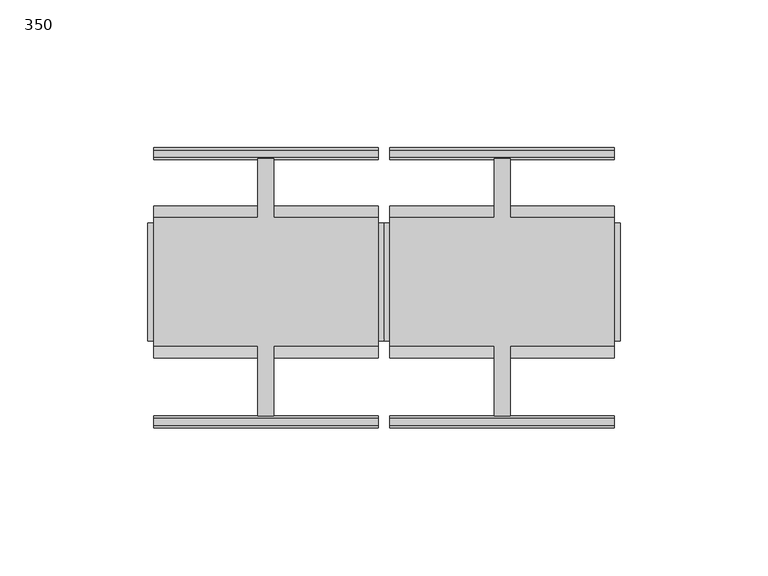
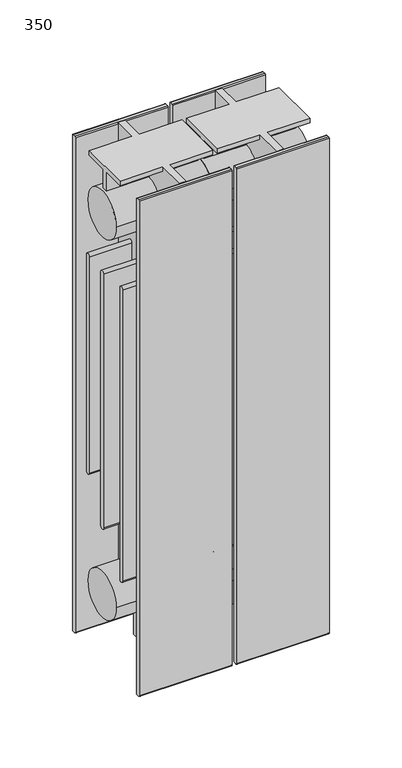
"""IFC4 building model written with IfcOpenShell, lengths in millimetres: flow terminal geometry, Radiators_Plus_EVO : 350."""

from ifc_helpers import new_model, si_unit, point, frame, frame_2d, origin, place, context, project, spatial, polyline, circle_curve, trimmed, segment, composite_curve, outline, extrude, source, transform, mapped, element, save
from ifc_brep_helpers import plane_surface, cylinder_surface, advanced_brep


def flow_terminal_350_35cabe33(model_context):
    return source(origin(), model_context, "Body", "SolidModel", [
        advanced_brep(
        [(400.0, -25.503125, 400.388638), (400.0, -65.503125, 400.388638), (320.0, -25.503125, 400.388638), (320.0, -65.503125, 400.388638), (362.7187498, -65.503125, 400.388638), (362.7187498, -25.503125, 400.388638), (357.2812502, -25.503125, 400.388638), (357.2812502, -65.503125, 400.388638), (362.7187498, -43.495241, 420.2875928), (398.0, -43.495241, 420.2875928), (398.0, -47.495241, 420.2891775), (362.7187498, -47.495241, 420.2891775), (357.2812502, -47.495241, 420.2891775), (322.0, -47.495241, 420.2891775), (322.0, -43.495241, 420.2875928), (357.2812502, -43.495241, 420.2875928), (398.0, -43.495241, 436.9849544), (398.0, -23.7570628, 436.9849544), (398.0, -23.7570628, 441.0), (398.0, -67.2491872, 441.0), (398.0, -67.2491872, 436.9849544), (398.0, -47.495241, 436.9849544), (322.0, -47.495241, 436.9849544), (322.0, -67.2491872, 436.9849544), (322.0, -67.2491872, 441.0), (322.0, -23.7570628, 441.0), (322.0, -23.7570628, 436.9849544), (322.0, -43.495241, 436.9849544), (362.7187498, -3.7880777, 441.0), (357.2812502, -3.7880777, 441.0), (357.2812502, -23.7570628, 441.0), (357.2812502, -67.2491872, 441.0), (357.2812502, -91.0, 441.0), (362.7187498, -91.0, 441.0), (362.7187498, -67.2491872, 441.0), (362.7187498, -23.7570628, 441.0), (362.7187498, -47.495241, 436.9849544), (357.2812502, -47.495241, 436.9849544), (362.7187498, -43.495241, 436.9849544), (357.2812502, -43.495241, 436.9849544), (362.7187498, -91.0, 10.0), (362.7187498, -74.066735, 30.9108407), (362.7187498, -65.495241, 30.9108407), (362.7187498, -65.495241, 10.0), (362.7187498, -25.495241, 10.0), (362.7187498, -25.495241, 30.9108407), (362.7187498, -8.0284548, 30.9108407), (362.7187498, -8.0284548, 37.9108407), (362.7187498, -4.0, 37.9108407), (362.7187498, -4.0, 440.2059516), (362.7187498, -3.7471759, 440.7895598), (362.7187498, -23.7570628, 436.9849544), (362.7187498, -67.2491872, 436.9849544), (362.7187498, -91.0, 440.2059516), (362.7187498, -91.0, 10.8), (357.2812502, -8.0284548, 37.9108407), (357.2812502, -8.0284548, 30.9108407), (357.2812502, -25.495241, 30.9108407), (357.2812502, -25.495241, 10.0), (357.2812502, -65.495241, 10.0), (357.2812502, -65.495241, 30.9108407), (357.2812502, -74.066735, 30.9108407), (357.2812502, -91.0, 10.0), (357.2812502, -91.0, 10.8), (357.2812502, -91.0, 440.2059516), (357.2812502, -67.2491872, 436.9849544), (357.2812502, -23.7570628, 436.9849544), (357.2812502, -3.7471759, 440.7895598), (357.2812502, -4.0, 440.2059516), (357.2812502, -4.0, 37.9108407), (398.0, 0.0, 440.2059516), (398.0, 0.0, 10.8), (322.0, 0.0, 10.8), (322.0, 0.0, 440.2059516), (398.0, -94.2, 441.0059516), (398.0, -95.0, 440.2059516), (398.0, -95.0, 10.8), (398.0, -94.2, 10.0), (398.0, -91.8, 10.0), (398.0, -91.0, 10.8), (398.0, -91.0, 440.2059516), (398.0, -91.8, 441.0059516), (322.0, -94.2, 441.0059516), (322.0, -91.8, 441.0059516), (322.0, -91.0, 440.2059516), (322.0, -91.0, 10.8), (322.0, -91.8, 10.0), (322.0, -94.2, 10.0), (322.0, -95.0, 10.8), (322.0, -95.0, 440.2059516), (398.0, -0.8, 441.0059516), (398.0, -3.2, 441.0059516), (398.0, -4.0, 440.2059516), (398.0, -4.0, 10.8), (398.0, -3.2, 10.0), (398.0, -0.8, 10.0), (322.0, -0.8, 10.0), (322.0, -3.2, 10.0), (322.0, -4.0, 10.8), (322.0, -4.0, 440.2059516), (322.0, -3.2, 441.0059516), (322.0, -0.8, 441.0059516)],
        [
            (0, 1, circle_curve(frame((400.0, -45.503125, 400.388638), z_axis=(1.0, 0.0, 0.0), x_axis=(0.0, -1.0, 0.0)), 20.0)),
            (1, 0, circle_curve(frame((400.0, -45.503125, 400.388638), z_axis=(1.0, 0.0, 0.0), x_axis=(0.0, -1.0, 0.0)), 20.0)),
            (2, 3, circle_curve(frame((320.0, -45.503125, 400.388638), z_axis=(-1.0, 0.0, 0.0), x_axis=(0.0, -1.0, 0.0)), 20.0)),
            (3, 2, circle_curve(frame((320.0, -45.503125, 400.388638), z_axis=(-1.0, 0.0, 0.0), x_axis=(0.0, -1.0, 0.0)), 20.0)),
            (1, 4),
            (4, 5, circle_curve(frame((362.7187498, -45.503125, 400.388638), z_axis=(1.0, 0.0, 0.0), x_axis=(0.0, -1.0, 0.0)), 20.0)),
            (5, 0),
            (2, 6),
            (6, 7, circle_curve(frame((357.2812502, -45.503125, 400.388638), z_axis=(-1.0, 0.0, 0.0), x_axis=(0.0, -1.0, 0.0)), 20.0)),
            (7, 3),
            (5, 8, circle_curve(frame((362.7187498, -45.503125, 400.388638), z_axis=(1.0, 0.0, 0.0), x_axis=(0.0, -1.0, 0.0)), 20.0)),
            (8, 9),
            (9, 10, circle_curve(frame((398.0, -45.503125, 400.388638), z_axis=(1.0, 0.0, 0.0), x_axis=(0.0, -1.0, 0.0)), 20.0)),
            (10, 11),
            (11, 4, circle_curve(frame((362.7187498, -45.503125, 400.388638), z_axis=(1.0, 0.0, 0.0), x_axis=(0.0, -1.0, 0.0)), 20.0)),
            (7, 12, circle_curve(frame((357.2812502, -45.503125, 400.388638), z_axis=(-1.0, 0.0, 0.0), x_axis=(0.0, -1.0, 0.0)), 20.0)),
            (12, 13),
            (13, 14, circle_curve(frame((322.0, -45.503125, 400.388638), z_axis=(-1.0, 0.0, 0.0), x_axis=(0.0, -1.0, 0.0)), 20.0)),
            (14, 15),
            (15, 6, circle_curve(frame((357.2812502, -45.503125, 400.388638), z_axis=(-1.0, 0.0, 0.0), x_axis=(0.0, -1.0, 0.0)), 20.0)),
            (9, 16),
            (16, 17),
            (17, 18),
            (18, 19),
            (19, 20),
            (20, 21),
            (21, 10),
            (13, 22),
            (22, 23),
            (23, 24),
            (24, 25),
            (25, 26),
            (26, 27),
            (27, 14),
            (28, 29),
            (29, 30),
            (30, 25),
            (24, 31),
            (31, 32),
            (32, 33),
            (33, 34),
            (34, 19),
            (18, 35),
            (35, 28),
            (21, 36),
            (36, 11),
            (12, 37),
            (37, 22),
            (8, 38),
            (38, 16),
            (27, 39),
            (39, 15),
            (40, 41),
            (41, 42),
            (42, 43),
            (43, 44),
            (44, 45),
            (45, 46),
            (46, 47),
            (47, 48),
            (48, 49),
            (49, 50, circle_curve(frame((362.7187498, -3.2, 440.2059516), z_axis=(-1.0, 0.0, 0.0), x_axis=(0.0, 1.0, 0.0)), 0.8)),
            (50, 28),
            (35, 51),
            (51, 38),
            (36, 52),
            (52, 34),
            (33, 53),
            (53, 54),
            (54, 40),
            (55, 56),
            (56, 57),
            (57, 58),
            (58, 59),
            (59, 60),
            (60, 61),
            (61, 62),
            (62, 63),
            (63, 64),
            (64, 32),
            (31, 65),
            (65, 37),
            (39, 66),
            (66, 30),
            (29, 67),
            (67, 68, circle_curve(frame((357.2812502, -3.2, 440.2059516), z_axis=(1.0, 0.0, 0.0), x_axis=(0.0, 1.0, 0.0)), 0.8)),
            (68, 69),
            (69, 55),
            (47, 55),
            (69, 48),
            (46, 56),
            (45, 57),
            (41, 61),
            (60, 42),
            (50, 67),
            (64, 53),
            (62, 40),
            (54, 63),
            (70, 71),
            (71, 72),
            (72, 73),
            (73, 70),
            (74, 75, circle_curve(frame((398.0, -94.2, 440.2059516), z_axis=(1.0, 0.0, 0.0), x_axis=(0.0, -1.0, 0.0)), 0.8)),
            (75, 76),
            (76, 77, circle_curve(frame((398.0, -94.2, 10.8), z_axis=(1.0, 0.0, 0.0), x_axis=(0.0, -1.0, 0.0)), 0.8)),
            (77, 78),
            (78, 79, circle_curve(frame((398.0, -91.8, 10.8), z_axis=(1.0, 0.0, 0.0), x_axis=(0.0, -1.0, 0.0)), 0.8)),
            (79, 80),
            (80, 81, circle_curve(frame((398.0, -91.8, 440.2059516), z_axis=(1.0, 0.0, 0.0), x_axis=(0.0, -1.0, 0.0)), 0.8)),
            (81, 74),
            (82, 83),
            (83, 84, circle_curve(frame((322.0, -91.8, 440.2059516), z_axis=(-1.0, 0.0, 0.0), x_axis=(0.0, -1.0, 0.0)), 0.8)),
            (84, 85),
            (85, 86, circle_curve(frame((322.0, -91.8, 10.8), z_axis=(-1.0, 0.0, 0.0), x_axis=(0.0, -1.0, 0.0)), 0.8)),
            (86, 87),
            (87, 88, circle_curve(frame((322.0, -94.2, 10.8), z_axis=(-1.0, 0.0, 0.0), x_axis=(0.0, -1.0, 0.0)), 0.8)),
            (88, 89),
            (89, 82, circle_curve(frame((322.0, -94.2, 440.2059516), z_axis=(-1.0, 0.0, 0.0), x_axis=(0.0, -1.0, 0.0)), 0.8)),
            (81, 83),
            (82, 74),
            (80, 53),
            (64, 84),
            (79, 54),
            (63, 85),
            (78, 86),
            (77, 87),
            (76, 88),
            (75, 89),
            (51, 17),
            (26, 66),
            (20, 52),
            (65, 23),
            (43, 59),
            (58, 44),
            (70, 90, circle_curve(frame((398.0, -0.8, 440.2059516), z_axis=(1.0, 0.0, 0.0), x_axis=(0.0, 1.0, 0.0)), 0.8)),
            (90, 91),
            (91, 92, circle_curve(frame((398.0, -3.2, 440.2059516), z_axis=(1.0, 0.0, 0.0), x_axis=(0.0, 1.0, 0.0)), 0.8)),
            (92, 93),
            (93, 94, circle_curve(frame((398.0, -3.2, 10.8), z_axis=(1.0, 0.0, 0.0), x_axis=(0.0, 1.0, 0.0)), 0.8)),
            (94, 95),
            (95, 71, circle_curve(frame((398.0, -0.8, 10.8), z_axis=(1.0, 0.0, 0.0), x_axis=(0.0, 1.0, 0.0)), 0.8)),
            (72, 96, circle_curve(frame((322.0, -0.8, 10.8), z_axis=(-1.0, 0.0, 0.0), x_axis=(0.0, 1.0, 0.0)), 0.8)),
            (96, 97),
            (97, 98, circle_curve(frame((322.0, -3.2, 10.8), z_axis=(-1.0, 0.0, 0.0), x_axis=(0.0, 1.0, 0.0)), 0.8)),
            (98, 99),
            (99, 100, circle_curve(frame((322.0, -3.2, 440.2059516), z_axis=(-1.0, 0.0, 0.0), x_axis=(0.0, 1.0, 0.0)), 0.8)),
            (100, 101),
            (101, 73, circle_curve(frame((322.0, -0.8, 440.2059516), z_axis=(-1.0, 0.0, 0.0), x_axis=(0.0, 1.0, 0.0)), 0.8)),
            (101, 90),
            (100, 91),
            (99, 68),
            (49, 92),
            (98, 93),
            (97, 94),
            (96, 95),
        ],
        [
            plane_surface(frame((400.0, -65.503125, 400.388638), z_axis=(1.0, 0.0, 0.0), x_axis=(0.0, 0.0, -1.0))),
            plane_surface(frame((320.0, -65.503125, 400.388638), z_axis=(-1.0, 0.0, 0.0), x_axis=(0.0, 0.0, 1.0))),
            cylinder_surface(frame((320.0, -45.503125, 400.388638), z_axis=(1.0, 0.0, 0.0), x_axis=(0.0, -1.0, 0.0)), 20.0),
            plane_surface(frame((398.0, -47.495241, 418.7073439), z_axis=(1.0, 0.0, 0.0), x_axis=(0.0, 0.0, -1.0))),
            plane_surface(frame((322.0, -47.495241, 418.7073439), z_axis=(-1.0, 0.0, 0.0), x_axis=(0.0, 0.0, 1.0))),
            plane_surface(frame((398.0, -43.495241, 441.0), z_axis=(0.0, 0.0, 1.0), x_axis=(-1.0, 0.0, 0.0))),
            plane_surface(frame((398.0, -47.495241, 441.0), z_axis=(0.0, -1.0, 0.0), x_axis=(-1.0, 0.0, 0.0))),
            plane_surface(frame((398.0, -43.495241, 418.7073439), z_axis=(0.0, 1.0, 0.0), x_axis=(-1.0, 0.0, 0.0))),
            plane_surface(frame((362.7187498, -91.0, 441.0), z_axis=(1.0, 0.0, 0.0), x_axis=(0.0, -1.0, 0.0))),
            plane_surface(frame((357.2812502, -91.0, 441.0), z_axis=(-1.0, 0.0, 0.0), x_axis=(0.0, 1.0, 0.0))),
            plane_surface(frame((362.7187498, -8.0284548, 37.9108407), z_axis=(0.0, 0.0, -1.0), x_axis=(-1.0, 0.0, 0.0))),
            plane_surface(frame((362.7187498, -8.0284548, 30.9108407), z_axis=(0.0, 1.0, 0.0), x_axis=(-1.0, 0.0, 0.0))),
            plane_surface(frame((362.7187498, -74.066735, 30.9108407), z_axis=(0.0, 0.0, -1.0), x_axis=(-1.0, 0.0, 0.0))),
            plane_surface(frame((362.7187498, -1.4796375, 429.1230619), z_axis=(0.0, 0.9816303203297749, 0.19079285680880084), x_axis=(-1.0, 0.0, 0.0))),
            plane_surface(frame((362.7187498, -91.0, 441.0), z_axis=(0.0, -1.0, 0.0), x_axis=(-1.0, 0.0, 0.0))),
            plane_surface(frame((362.7187498, -91.0, 10.0), z_axis=(0.0, 0.7771459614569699, -0.6293203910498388), x_axis=(-1.0, 0.0, 0.0))),
            plane_surface(frame((362.7187498, 0.0, 37.9108407), z_axis=(0.0, 1.0, 0.0), x_axis=(-1.0, 0.0, 0.0))),
            plane_surface(frame((398.0, -95.0, 440.2059516), z_axis=(1.0, 0.0, 0.0), x_axis=(0.0, 0.0, -1.0))),
            plane_surface(frame((322.0, -95.0, 440.2059516), z_axis=(-1.0, 0.0, 0.0), x_axis=(0.0, 0.0, 1.0))),
            plane_surface(frame((398.0, -91.8, 441.0059516), z_axis=(0.0, 0.0, 1.0), x_axis=(-1.0, 0.0, 0.0))),
            cylinder_surface(frame((322.0, -91.8, 440.2059516), z_axis=(1.0, 0.0, 0.0), x_axis=(0.0, -1.0, 0.0)), 0.8),
            plane_surface(frame((398.0, -91.0, 10.8), z_axis=(0.0, 1.0, 0.0), x_axis=(-1.0, 0.0, 0.0))),
            cylinder_surface(frame((322.0, -91.8, 10.8), z_axis=(1.0, 0.0, 0.0), x_axis=(0.0, -1.0, 0.0)), 0.8),
            plane_surface(frame((398.0, -94.2, 10.0), z_axis=(0.0, 0.0, -1.0), x_axis=(-1.0, 0.0, 0.0))),
            cylinder_surface(frame((322.0, -94.2, 10.8), z_axis=(1.0, 0.0, 0.0), x_axis=(0.0, -1.0, 0.0)), 0.8),
            plane_surface(frame((398.0, -95.0, 440.2059516), z_axis=(0.0, -1.0, 0.0), x_axis=(-1.0, 0.0, 0.0))),
            cylinder_surface(frame((322.0, -94.2, 440.2059516), z_axis=(1.0, 0.0, 0.0), x_axis=(0.0, -1.0, 0.0)), 0.8),
            plane_surface(frame((362.7187498, -23.7570628, 436.9849544), z_axis=(0.0, 0.0, -1.0), x_axis=(1.0, 0.0, 0.0))),
            plane_surface(frame((398.0, -23.7570628, 441.0), z_axis=(0.0, 1.0, 0.0), x_axis=(0.0, 0.0, -1.0))),
            plane_surface(frame((362.7187498, -67.2491872, 441.0), z_axis=(0.0, -1.0, 0.0), x_axis=(0.0, 0.0, -1.0))),
            plane_surface(frame((322.0, -67.2491872, 441.0), z_axis=(0.0, -1.0, 0.0), x_axis=(0.0, 0.0, -1.0))),
            plane_surface(frame((362.7187498, -65.495241, 10.0), z_axis=(0.0, 0.0, -1.0), x_axis=(-1.0, 0.0, 0.0))),
            plane_surface(frame((362.7187498, -25.495241, 10.0), z_axis=(0.0, 1.0, 0.0), x_axis=(-1.0, 0.0, 0.0))),
            plane_surface(frame((362.7187498, -65.495241, 69.9984662), z_axis=(0.0, -1.0, 0.0), x_axis=(-1.0, 0.0, 0.0))),
            plane_surface(frame((398.0, 0.0, 440.2059516), z_axis=(1.0, 0.0, 0.0), x_axis=(0.0, 0.0, 1.0))),
            plane_surface(frame((322.0, 0.0, 440.2059516), z_axis=(-1.0, 0.0, 0.0), x_axis=(0.0, 0.0, -1.0))),
            cylinder_surface(frame((322.0, -0.8, 440.2059516), z_axis=(1.0, 0.0, 0.0), x_axis=(0.0, 1.0, 0.0)), 0.8),
            plane_surface(frame((398.0, -0.8, 441.0059516), z_axis=(0.0, 0.0, 1.0), x_axis=(-1.0, 0.0, 0.0))),
            cylinder_surface(frame((322.0, -3.2, 440.2059516), z_axis=(1.0, 0.0, 0.0), x_axis=(0.0, 1.0, 0.0)), 0.8),
            plane_surface(frame((398.0, -4.0, 440.2059516), z_axis=(0.0, -1.0, 0.0), x_axis=(-1.0, 0.0, 0.0))),
            cylinder_surface(frame((322.0, -3.2, 10.8), z_axis=(1.0, 0.0, 0.0), x_axis=(0.0, 1.0, 0.0)), 0.8),
            plane_surface(frame((398.0, -3.2, 10.0), z_axis=(0.0, 0.0, -1.0), x_axis=(-1.0, 0.0, 0.0))),
            cylinder_surface(frame((322.0, -0.8, 10.8), z_axis=(1.0, 0.0, 0.0), x_axis=(0.0, 1.0, 0.0)), 0.8),
        ],
        [
            (0, [[1, 2]]),
            (1, [[3, 4]]),
            (2, [[-2, 5, 6, 7]]),
            (2, [[-3, 8, 9, 10]]),
            (2, [[-1, -7, 11, 12, 13, 14, 15, -5]]),
            (2, [[-4, -10, 16, 17, 18, 19, 20, -8]]),
            (3, [[-13, 21, 22, 23, 24, 25, 26, 27]]),
            (4, [[-18, 28, 29, 30, 31, 32, 33, 34]]),
            (5, [[35, 36, 37, -31, 38, 39, 40, 41, 42, -24, 43, 44]]),
            (6, [[-14, -27, 45, 46]]),
            (6, [[-17, 47, 48, -28]]),
            (7, [[-12, 49, 50, -21]]),
            (7, [[-19, -34, 51, 52]]),
            (8, [[53, 54, 55, 56, 57, 58, 59, 60, 61, 62, 63, -44, 64, 65, -49, -11, -6, -15, -46, 66, 67, -41, 68, 69, 70]]),
            (9, [[71, 72, 73, 74, 75, 76, 77, 78, 79, 80, -39, 81, 82, -47, -16, -9, -20, -52, 83, 84, -36, 85, 86, 87, 88]]),
            (10, [[89, -88, 90, -60]]),
            (11, [[-59, 91, -71, -89]]),
            (12, [[-91, -58, 92, -72]]),
            (12, [[93, -76, 94, -54]]),
            (13, [[-35, -63, 95, -85]]),
            (14, [[-40, -80, 96, -68]]),
            (14, [[97, -70, 98, -78]]),
            (15, [[-53, -97, -77, -93]]),
            (16, [[99, 100, 101, 102]]),
            (17, [[103, 104, 105, 106, 107, 108, 109, 110]]),
            (18, [[111, 112, 113, 114, 115, 116, 117, 118]]),
            (19, [[-110, 119, -111, 120]]),
            (20, [[-109, 121, -96, 122, -112, -119]]),
            (21, [[-108, 123, -69, -121]]),
            (21, [[-113, -122, -79, 124]]),
            (22, [[-107, 125, -114, -124, -98, -123]]),
            (23, [[-106, 126, -115, -125]]),
            (24, [[-105, 127, -116, -126]]),
            (25, [[-104, 128, -117, -127]]),
            (26, [[-103, -120, -118, -128]]),
            (27, [[-22, -50, -65, 129]]),
            (27, [[-33, 130, -83, -51]]),
            (27, [[131, -66, -45, -26]]),
            (27, [[132, -29, -48, -82]]),
            (28, [[-32, -37, -84, -130]]),
            (28, [[-23, -129, -64, -43]]),
            (29, [[-42, -67, -131, -25]]),
            (30, [[-38, -30, -132, -81]]),
            (31, [[-56, 133, -74, 134]]),
            (32, [[-134, -73, -92, -57]]),
            (33, [[-133, -55, -94, -75]]),
            (34, [[135, 136, 137, 138, 139, 140, 141, -99]]),
            (35, [[-101, 142, 143, 144, 145, 146, 147, 148]]),
            (36, [[-135, -102, -148, 149]]),
            (37, [[-136, -149, -147, 150]]),
            (38, [[-137, -150, -146, 151, -86, -95, -62, 152]]),
            (39, [[-138, -152, -61, -90, -87, -151, -145, 153]]),
            (40, [[-139, -153, -144, 154]]),
            (41, [[-140, -154, -143, 155]]),
            (42, [[-141, -155, -142, -100]]),
        ],
    ),
        extrude(outline(composite_curve([segment(trimmed(circle_curve(frame_2d((-45.495241, 69.9984662)), 20.0), [point((-25.495241, 69.9984662))], [point((-65.495241, 69.9984662))], False, "CARTESIAN"), True, "CONTINUOUS"), segment(trimmed(circle_curve(frame_2d((-45.495241, 69.9984662)), 20.0), [point((-65.495241, 69.9984662))], [point((-25.495241, 69.9984662))], False, "CARTESIAN"), True, "CONTINUOUS")], self_intersect=False)), frame((320.0, 0.0, 0.0), z_axis=(1.0, 0.0, 0.0), x_axis=(0.0, 1.0, 0.0)), (0.0, 0.0, 1.0), 80.0),
        extrude(outline(composite_curve([segment(trimmed(circle_curve(frame_2d((-69.2421244, 96.0436136)), 2.0), [point((-67.2421244, 96.0436136))], [point((-71.2421244, 96.0436136))], False, "CARTESIAN"), True, "CONTINUOUS"), segment(polyline([(-71.2421244, 96.0436136), (-71.2421244, 348.635473)]), True, "CONTINUOUS"), segment(trimmed(circle_curve(frame_2d((-69.2421244, 348.635473)), 2.0), [point((-71.2421244, 348.635473))], [point((-67.2421244, 348.635473))], False, "CARTESIAN"), True, "CONTINUOUS"), segment(polyline([(-67.2421244, 348.635473), (-67.2421244, 96.0436136)]), True, "CONTINUOUS")], self_intersect=False)), frame((322.0, 0.0, 0.0), z_axis=(1.0, 0.0, 0.0), x_axis=(0.0, 1.0, 0.0)), (0.0, 0.0, 1.0), 76.0),
        extrude(outline(composite_curve([segment(trimmed(circle_curve(frame_2d((-45.503125, 128.5759611)), 2.0), [point((-43.503125, 128.5759611))], [point((-47.503125, 128.5759611))], False, "CARTESIAN"), True, "CONTINUOUS"), segment(polyline([(-47.503125, 128.5759611), (-47.503125, 348.635473)]), True, "CONTINUOUS"), segment(trimmed(circle_curve(frame_2d((-45.503125, 348.635473)), 2.0), [point((-47.503125, 348.635473))], [point((-43.503125, 348.635473))], False, "CARTESIAN"), True, "CONTINUOUS"), segment(polyline([(-43.503125, 348.635473), (-43.503125, 128.5759611)]), True, "CONTINUOUS")], self_intersect=False)), frame((320.0, 0.0, 0.0), z_axis=(1.0, 0.0, 0.0), x_axis=(0.0, 1.0, 0.0)), (0.0, 0.0, 1.0), 80.0),
        extrude(outline(composite_curve([segment(trimmed(circle_curve(frame_2d((-21.75, 161.0607738)), 2.0), [point((-19.75, 161.0607738))], [point((-23.75, 161.0607738))], False, "CARTESIAN"), True, "CONTINUOUS"), segment(polyline([(-23.75, 161.0607738), (-23.75, 348.635473)]), True, "CONTINUOUS"), segment(trimmed(circle_curve(frame_2d((-21.75, 348.635473)), 2.0), [point((-23.75, 348.635473))], [point((-19.75, 348.635473))], False, "CARTESIAN"), True, "CONTINUOUS"), segment(polyline([(-19.75, 348.635473), (-19.75, 161.0607738)]), True, "CONTINUOUS")], self_intersect=False)), frame((322.0, 0.0, 0.0), z_axis=(1.0, 0.0, 0.0), x_axis=(0.0, 1.0, 0.0)), (0.0, 0.0, 1.0), 76.0),
        advanced_brep(
        [(320.0, -25.503125, 400.388638), (320.0, -65.503125, 400.388638), (240.0, -25.503125, 400.388638), (240.0, -65.503125, 400.388638), (282.7187498, -65.503125, 400.388638), (282.7187498, -25.503125, 400.388638), (277.2812502, -25.503125, 400.388638), (277.2812502, -65.503125, 400.388638), (282.7187498, -43.495241, 420.2875928), (318.0, -43.495241, 420.2875928), (318.0, -47.495241, 420.2891775), (282.7187498, -47.495241, 420.2891775), (277.2812502, -47.495241, 420.2891775), (242.0, -47.495241, 420.2891775), (242.0, -43.495241, 420.2875928), (277.2812502, -43.495241, 420.2875928), (318.0, -43.495241, 436.9849544), (318.0, -23.7570628, 436.9849544), (318.0, -23.7570628, 441.0), (318.0, -67.2491872, 441.0), (318.0, -67.2491872, 436.9849544), (318.0, -47.495241, 436.9849544), (242.0, -47.495241, 436.9849544), (242.0, -67.2491872, 436.9849544), (242.0, -67.2491872, 441.0), (242.0, -23.7570628, 441.0), (242.0, -23.7570628, 436.9849544), (242.0, -43.495241, 436.9849544), (282.7187498, -3.7880777, 441.0), (277.2812502, -3.7880777, 441.0), (277.2812502, -23.7570628, 441.0), (277.2812502, -67.2491872, 441.0), (277.2812502, -91.0, 441.0), (282.7187498, -91.0, 441.0), (282.7187498, -67.2491872, 441.0), (282.7187498, -23.7570628, 441.0), (282.7187498, -47.495241, 436.9849544), (277.2812502, -47.495241, 436.9849544), (282.7187498, -43.495241, 436.9849544), (277.2812502, -43.495241, 436.9849544), (282.7187498, -91.0, 10.0), (282.7187498, -74.066735, 30.9108407), (282.7187498, -65.495241, 30.9108407), (282.7187498, -65.495241, 10.0), (282.7187498, -25.495241, 10.0), (282.7187498, -25.495241, 30.9108407), (282.7187498, -8.0284548, 30.9108407), (282.7187498, -8.0284548, 37.9108407), (282.7187498, -4.0, 37.9108407), (282.7187498, -4.0, 440.2059516), (282.7187498, -3.7471759, 440.7895598), (282.7187498, -23.7570628, 436.9849544), (282.7187498, -67.2491872, 436.9849544), (282.7187498, -91.0, 440.2059516), (282.7187498, -91.0, 10.8), (277.2812502, -8.0284548, 37.9108407), (277.2812502, -8.0284548, 30.9108407), (277.2812502, -25.495241, 30.9108407), (277.2812502, -25.495241, 10.0), (277.2812502, -65.495241, 10.0), (277.2812502, -65.495241, 30.9108407), (277.2812502, -74.066735, 30.9108407), (277.2812502, -91.0, 10.0), (277.2812502, -91.0, 10.8), (277.2812502, -91.0, 440.2059516), (277.2812502, -67.2491872, 436.9849544), (277.2812502, -23.7570628, 436.9849544), (277.2812502, -3.7471759, 440.7895598), (277.2812502, -4.0, 440.2059516), (277.2812502, -4.0, 37.9108407), (318.0, 0.0, 440.2059516), (318.0, 0.0, 10.8), (242.0, 0.0, 10.8), (242.0, 0.0, 440.2059516), (318.0, -94.2, 441.0059516), (318.0, -95.0, 440.2059516), (318.0, -95.0, 10.8), (318.0, -94.2, 10.0), (318.0, -91.8, 10.0), (318.0, -91.0, 10.8), (318.0, -91.0, 440.2059516), (318.0, -91.8, 441.0059516), (242.0, -94.2, 441.0059516), (242.0, -91.8, 441.0059516), (242.0, -91.0, 440.2059516), (242.0, -91.0, 10.8), (242.0, -91.8, 10.0), (242.0, -94.2, 10.0), (242.0, -95.0, 10.8), (242.0, -95.0, 440.2059516), (318.0, -0.8, 441.0059516), (318.0, -3.2, 441.0059516), (318.0, -4.0, 440.2059516), (318.0, -4.0, 10.8), (318.0, -3.2, 10.0), (318.0, -0.8, 10.0), (242.0, -0.8, 10.0), (242.0, -3.2, 10.0), (242.0, -4.0, 10.8), (242.0, -4.0, 440.2059516), (242.0, -3.2, 441.0059516), (242.0, -0.8, 441.0059516)],
        [
            (0, 1, circle_curve(frame((320.0, -45.503125, 400.388638), z_axis=(1.0, 0.0, 0.0), x_axis=(0.0, -1.0, 0.0)), 20.0)),
            (1, 0, circle_curve(frame((320.0, -45.503125, 400.388638), z_axis=(1.0, 0.0, 0.0), x_axis=(0.0, -1.0, 0.0)), 20.0)),
            (2, 3, circle_curve(frame((240.0, -45.503125, 400.388638), z_axis=(-1.0, 0.0, 0.0), x_axis=(0.0, -1.0, 0.0)), 20.0)),
            (3, 2, circle_curve(frame((240.0, -45.503125, 400.388638), z_axis=(-1.0, 0.0, 0.0), x_axis=(0.0, -1.0, 0.0)), 20.0)),
            (1, 4),
            (4, 5, circle_curve(frame((282.7187498, -45.503125, 400.388638), z_axis=(1.0, 0.0, 0.0), x_axis=(0.0, -1.0, 0.0)), 20.0)),
            (5, 0),
            (2, 6),
            (6, 7, circle_curve(frame((277.2812502, -45.503125, 400.388638), z_axis=(-1.0, 0.0, 0.0), x_axis=(0.0, -1.0, 0.0)), 20.0)),
            (7, 3),
            (5, 8, circle_curve(frame((282.7187498, -45.503125, 400.388638), z_axis=(1.0, 0.0, 0.0), x_axis=(0.0, -1.0, 0.0)), 20.0)),
            (8, 9),
            (9, 10, circle_curve(frame((318.0, -45.503125, 400.388638), z_axis=(1.0, 0.0, 0.0), x_axis=(0.0, -1.0, 0.0)), 20.0)),
            (10, 11),
            (11, 4, circle_curve(frame((282.7187498, -45.503125, 400.388638), z_axis=(1.0, 0.0, 0.0), x_axis=(0.0, -1.0, 0.0)), 20.0)),
            (7, 12, circle_curve(frame((277.2812502, -45.503125, 400.388638), z_axis=(-1.0, 0.0, 0.0), x_axis=(0.0, -1.0, 0.0)), 20.0)),
            (12, 13),
            (13, 14, circle_curve(frame((242.0, -45.503125, 400.388638), z_axis=(-1.0, 0.0, 0.0), x_axis=(0.0, -1.0, 0.0)), 20.0)),
            (14, 15),
            (15, 6, circle_curve(frame((277.2812502, -45.503125, 400.388638), z_axis=(-1.0, 0.0, 0.0), x_axis=(0.0, -1.0, 0.0)), 20.0)),
            (9, 16),
            (16, 17),
            (17, 18),
            (18, 19),
            (19, 20),
            (20, 21),
            (21, 10),
            (13, 22),
            (22, 23),
            (23, 24),
            (24, 25),
            (25, 26),
            (26, 27),
            (27, 14),
            (28, 29),
            (29, 30),
            (30, 25),
            (24, 31),
            (31, 32),
            (32, 33),
            (33, 34),
            (34, 19),
            (18, 35),
            (35, 28),
            (21, 36),
            (36, 11),
            (12, 37),
            (37, 22),
            (8, 38),
            (38, 16),
            (27, 39),
            (39, 15),
            (40, 41),
            (41, 42),
            (42, 43),
            (43, 44),
            (44, 45),
            (45, 46),
            (46, 47),
            (47, 48),
            (48, 49),
            (49, 50, circle_curve(frame((282.7187498, -3.2, 440.2059516), z_axis=(-1.0, 0.0, 0.0), x_axis=(0.0, 1.0, 0.0)), 0.8)),
            (50, 28),
            (35, 51),
            (51, 38),
            (36, 52),
            (52, 34),
            (33, 53),
            (53, 54),
            (54, 40),
            (55, 56),
            (56, 57),
            (57, 58),
            (58, 59),
            (59, 60),
            (60, 61),
            (61, 62),
            (62, 63),
            (63, 64),
            (64, 32),
            (31, 65),
            (65, 37),
            (39, 66),
            (66, 30),
            (29, 67),
            (67, 68, circle_curve(frame((277.2812502, -3.2, 440.2059516), z_axis=(1.0, 0.0, 0.0), x_axis=(0.0, 1.0, 0.0)), 0.8)),
            (68, 69),
            (69, 55),
            (47, 55),
            (69, 48),
            (46, 56),
            (45, 57),
            (41, 61),
            (60, 42),
            (50, 67),
            (64, 53),
            (62, 40),
            (54, 63),
            (70, 71),
            (71, 72),
            (72, 73),
            (73, 70),
            (74, 75, circle_curve(frame((318.0, -94.2, 440.2059516), z_axis=(1.0, 0.0, 0.0), x_axis=(0.0, -1.0, 0.0)), 0.8)),
            (75, 76),
            (76, 77, circle_curve(frame((318.0, -94.2, 10.8), z_axis=(1.0, 0.0, 0.0), x_axis=(0.0, -1.0, 0.0)), 0.8)),
            (77, 78),
            (78, 79, circle_curve(frame((318.0, -91.8, 10.8), z_axis=(1.0, 0.0, 0.0), x_axis=(0.0, -1.0, 0.0)), 0.8)),
            (79, 80),
            (80, 81, circle_curve(frame((318.0, -91.8, 440.2059516), z_axis=(1.0, 0.0, 0.0), x_axis=(0.0, -1.0, 0.0)), 0.8)),
            (81, 74),
            (82, 83),
            (83, 84, circle_curve(frame((242.0, -91.8, 440.2059516), z_axis=(-1.0, 0.0, 0.0), x_axis=(0.0, -1.0, 0.0)), 0.8)),
            (84, 85),
            (85, 86, circle_curve(frame((242.0, -91.8, 10.8), z_axis=(-1.0, 0.0, 0.0), x_axis=(0.0, -1.0, 0.0)), 0.8)),
            (86, 87),
            (87, 88, circle_curve(frame((242.0, -94.2, 10.8), z_axis=(-1.0, 0.0, 0.0), x_axis=(0.0, -1.0, 0.0)), 0.8)),
            (88, 89),
            (89, 82, circle_curve(frame((242.0, -94.2, 440.2059516), z_axis=(-1.0, 0.0, 0.0), x_axis=(0.0, -1.0, 0.0)), 0.8)),
            (81, 83),
            (82, 74),
            (80, 53),
            (64, 84),
            (79, 54),
            (63, 85),
            (78, 86),
            (77, 87),
            (76, 88),
            (75, 89),
            (51, 17),
            (26, 66),
            (20, 52),
            (65, 23),
            (43, 59),
            (58, 44),
            (70, 90, circle_curve(frame((318.0, -0.8, 440.2059516), z_axis=(1.0, 0.0, 0.0), x_axis=(0.0, 1.0, 0.0)), 0.8)),
            (90, 91),
            (91, 92, circle_curve(frame((318.0, -3.2, 440.2059516), z_axis=(1.0, 0.0, 0.0), x_axis=(0.0, 1.0, 0.0)), 0.8)),
            (92, 93),
            (93, 94, circle_curve(frame((318.0, -3.2, 10.8), z_axis=(1.0, 0.0, 0.0), x_axis=(0.0, 1.0, 0.0)), 0.8)),
            (94, 95),
            (95, 71, circle_curve(frame((318.0, -0.8, 10.8), z_axis=(1.0, 0.0, 0.0), x_axis=(0.0, 1.0, 0.0)), 0.8)),
            (72, 96, circle_curve(frame((242.0, -0.8, 10.8), z_axis=(-1.0, 0.0, 0.0), x_axis=(0.0, 1.0, 0.0)), 0.8)),
            (96, 97),
            (97, 98, circle_curve(frame((242.0, -3.2, 10.8), z_axis=(-1.0, 0.0, 0.0), x_axis=(0.0, 1.0, 0.0)), 0.8)),
            (98, 99),
            (99, 100, circle_curve(frame((242.0, -3.2, 440.2059516), z_axis=(-1.0, 0.0, 0.0), x_axis=(0.0, 1.0, 0.0)), 0.8)),
            (100, 101),
            (101, 73, circle_curve(frame((242.0, -0.8, 440.2059516), z_axis=(-1.0, 0.0, 0.0), x_axis=(0.0, 1.0, 0.0)), 0.8)),
            (101, 90),
            (100, 91),
            (99, 68),
            (49, 92),
            (98, 93),
            (97, 94),
            (96, 95),
        ],
        [
            plane_surface(frame((320.0, -65.503125, 400.388638), z_axis=(1.0, 0.0, 0.0), x_axis=(0.0, 0.0, -1.0))),
            plane_surface(frame((240.0, -65.503125, 400.388638), z_axis=(-1.0, 0.0, 0.0), x_axis=(0.0, 0.0, 1.0))),
            cylinder_surface(frame((240.0, -45.503125, 400.388638), z_axis=(1.0, 0.0, 0.0), x_axis=(0.0, -1.0, 0.0)), 20.0),
            plane_surface(frame((318.0, -47.495241, 418.7073439), z_axis=(1.0, 0.0, 0.0), x_axis=(0.0, 0.0, -1.0))),
            plane_surface(frame((242.0, -47.495241, 418.7073439), z_axis=(-1.0, 0.0, 0.0), x_axis=(0.0, 0.0, 1.0))),
            plane_surface(frame((318.0, -43.495241, 441.0), z_axis=(0.0, 0.0, 1.0), x_axis=(-1.0, 0.0, 0.0))),
            plane_surface(frame((318.0, -47.495241, 441.0), z_axis=(0.0, -1.0, 0.0), x_axis=(-1.0, 0.0, 0.0))),
            plane_surface(frame((318.0, -43.495241, 418.7073439), z_axis=(0.0, 1.0, 0.0), x_axis=(-1.0, 0.0, 0.0))),
            plane_surface(frame((282.7187498, -91.0, 441.0), z_axis=(1.0, 0.0, 0.0), x_axis=(0.0, -1.0, 0.0))),
            plane_surface(frame((277.2812502, -91.0, 441.0), z_axis=(-1.0, 0.0, 0.0), x_axis=(0.0, 1.0, 0.0))),
            plane_surface(frame((282.7187498, -8.0284548, 37.9108407), z_axis=(0.0, 0.0, -1.0), x_axis=(-1.0, 0.0, 0.0))),
            plane_surface(frame((282.7187498, -8.0284548, 30.9108407), z_axis=(0.0, 1.0, 0.0), x_axis=(-1.0, 0.0, 0.0))),
            plane_surface(frame((282.7187498, -74.066735, 30.9108407), z_axis=(0.0, 0.0, -1.0), x_axis=(-1.0, 0.0, 0.0))),
            plane_surface(frame((282.7187498, -1.4796375, 429.1230619), z_axis=(0.0, 0.9816303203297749, 0.19079285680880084), x_axis=(-1.0, 0.0, 0.0))),
            plane_surface(frame((282.7187498, -91.0, 441.0), z_axis=(0.0, -1.0, 0.0), x_axis=(-1.0, 0.0, 0.0))),
            plane_surface(frame((282.7187498, -91.0, 10.0), z_axis=(0.0, 0.7771459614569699, -0.6293203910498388), x_axis=(-1.0, 0.0, 0.0))),
            plane_surface(frame((282.7187498, 0.0, 37.9108407), z_axis=(0.0, 1.0, 0.0), x_axis=(-1.0, 0.0, 0.0))),
            plane_surface(frame((318.0, -95.0, 440.2059516), z_axis=(1.0, 0.0, 0.0), x_axis=(0.0, 0.0, -1.0))),
            plane_surface(frame((242.0, -95.0, 440.2059516), z_axis=(-1.0, 0.0, 0.0), x_axis=(0.0, 0.0, 1.0))),
            plane_surface(frame((318.0, -91.8, 441.0059516), z_axis=(0.0, 0.0, 1.0), x_axis=(-1.0, 0.0, 0.0))),
            cylinder_surface(frame((242.0, -91.8, 440.2059516), z_axis=(1.0, 0.0, 0.0), x_axis=(0.0, -1.0, 0.0)), 0.8),
            plane_surface(frame((318.0, -91.0, 10.8), z_axis=(0.0, 1.0, 0.0), x_axis=(-1.0, 0.0, 0.0))),
            cylinder_surface(frame((242.0, -91.8, 10.8), z_axis=(1.0, 0.0, 0.0), x_axis=(0.0, -1.0, 0.0)), 0.8),
            plane_surface(frame((318.0, -94.2, 10.0), z_axis=(0.0, 0.0, -1.0), x_axis=(-1.0, 0.0, 0.0))),
            cylinder_surface(frame((242.0, -94.2, 10.8), z_axis=(1.0, 0.0, 0.0), x_axis=(0.0, -1.0, 0.0)), 0.8),
            plane_surface(frame((318.0, -95.0, 440.2059516), z_axis=(0.0, -1.0, 0.0), x_axis=(-1.0, 0.0, 0.0))),
            cylinder_surface(frame((242.0, -94.2, 440.2059516), z_axis=(1.0, 0.0, 0.0), x_axis=(0.0, -1.0, 0.0)), 0.8),
            plane_surface(frame((282.7187498, -23.7570628, 436.9849544), z_axis=(0.0, 0.0, -1.0), x_axis=(1.0, 0.0, 0.0))),
            plane_surface(frame((318.0, -23.7570628, 441.0), z_axis=(0.0, 1.0, 0.0), x_axis=(0.0, 0.0, -1.0))),
            plane_surface(frame((282.7187498, -67.2491872, 441.0), z_axis=(0.0, -1.0, 0.0), x_axis=(0.0, 0.0, -1.0))),
            plane_surface(frame((242.0, -67.2491872, 441.0), z_axis=(0.0, -1.0, 0.0), x_axis=(0.0, 0.0, -1.0))),
            plane_surface(frame((282.7187498, -65.495241, 10.0), z_axis=(0.0, 0.0, -1.0), x_axis=(-1.0, 0.0, 0.0))),
            plane_surface(frame((282.7187498, -25.495241, 10.0), z_axis=(0.0, 1.0, 0.0), x_axis=(-1.0, 0.0, 0.0))),
            plane_surface(frame((282.7187498, -65.495241, 69.9984662), z_axis=(0.0, -1.0, 0.0), x_axis=(-1.0, 0.0, 0.0))),
            plane_surface(frame((318.0, 0.0, 440.2059516), z_axis=(1.0, 0.0, 0.0), x_axis=(0.0, 0.0, 1.0))),
            plane_surface(frame((242.0, 0.0, 440.2059516), z_axis=(-1.0, 0.0, 0.0), x_axis=(0.0, 0.0, -1.0))),
            cylinder_surface(frame((242.0, -0.8, 440.2059516), z_axis=(1.0, 0.0, 0.0), x_axis=(0.0, 1.0, 0.0)), 0.8),
            plane_surface(frame((318.0, -0.8, 441.0059516), z_axis=(0.0, 0.0, 1.0), x_axis=(-1.0, 0.0, 0.0))),
            cylinder_surface(frame((242.0, -3.2, 440.2059516), z_axis=(1.0, 0.0, 0.0), x_axis=(0.0, 1.0, 0.0)), 0.8),
            plane_surface(frame((318.0, -4.0, 440.2059516), z_axis=(0.0, -1.0, 0.0), x_axis=(-1.0, 0.0, 0.0))),
            cylinder_surface(frame((242.0, -3.2, 10.8), z_axis=(1.0, 0.0, 0.0), x_axis=(0.0, 1.0, 0.0)), 0.8),
            plane_surface(frame((318.0, -3.2, 10.0), z_axis=(0.0, 0.0, -1.0), x_axis=(-1.0, 0.0, 0.0))),
            cylinder_surface(frame((242.0, -0.8, 10.8), z_axis=(1.0, 0.0, 0.0), x_axis=(0.0, 1.0, 0.0)), 0.8),
        ],
        [
            (0, [[1, 2]]),
            (1, [[3, 4]]),
            (2, [[-2, 5, 6, 7]]),
            (2, [[-3, 8, 9, 10]]),
            (2, [[-1, -7, 11, 12, 13, 14, 15, -5]]),
            (2, [[-4, -10, 16, 17, 18, 19, 20, -8]]),
            (3, [[-13, 21, 22, 23, 24, 25, 26, 27]]),
            (4, [[-18, 28, 29, 30, 31, 32, 33, 34]]),
            (5, [[35, 36, 37, -31, 38, 39, 40, 41, 42, -24, 43, 44]]),
            (6, [[-14, -27, 45, 46]]),
            (6, [[-17, 47, 48, -28]]),
            (7, [[-12, 49, 50, -21]]),
            (7, [[-19, -34, 51, 52]]),
            (8, [[53, 54, 55, 56, 57, 58, 59, 60, 61, 62, 63, -44, 64, 65, -49, -11, -6, -15, -46, 66, 67, -41, 68, 69, 70]]),
            (9, [[71, 72, 73, 74, 75, 76, 77, 78, 79, 80, -39, 81, 82, -47, -16, -9, -20, -52, 83, 84, -36, 85, 86, 87, 88]]),
            (10, [[89, -88, 90, -60]]),
            (11, [[-59, 91, -71, -89]]),
            (12, [[-91, -58, 92, -72]]),
            (12, [[93, -76, 94, -54]]),
            (13, [[-35, -63, 95, -85]]),
            (14, [[-40, -80, 96, -68]]),
            (14, [[97, -70, 98, -78]]),
            (15, [[-53, -97, -77, -93]]),
            (16, [[99, 100, 101, 102]]),
            (17, [[103, 104, 105, 106, 107, 108, 109, 110]]),
            (18, [[111, 112, 113, 114, 115, 116, 117, 118]]),
            (19, [[-110, 119, -111, 120]]),
            (20, [[-109, 121, -96, 122, -112, -119]]),
            (21, [[-108, 123, -69, -121]]),
            (21, [[-113, -122, -79, 124]]),
            (22, [[-107, 125, -114, -124, -98, -123]]),
            (23, [[-106, 126, -115, -125]]),
            (24, [[-105, 127, -116, -126]]),
            (25, [[-104, 128, -117, -127]]),
            (26, [[-103, -120, -118, -128]]),
            (27, [[-22, -50, -65, 129]]),
            (27, [[-33, 130, -83, -51]]),
            (27, [[131, -66, -45, -26]]),
            (27, [[132, -29, -48, -82]]),
            (28, [[-32, -37, -84, -130]]),
            (28, [[-23, -129, -64, -43]]),
            (29, [[-42, -67, -131, -25]]),
            (30, [[-38, -30, -132, -81]]),
            (31, [[-56, 133, -74, 134]]),
            (32, [[-134, -73, -92, -57]]),
            (33, [[-133, -55, -94, -75]]),
            (34, [[135, 136, 137, 138, 139, 140, 141, -99]]),
            (35, [[-101, 142, 143, 144, 145, 146, 147, 148]]),
            (36, [[-135, -102, -148, 149]]),
            (37, [[-136, -149, -147, 150]]),
            (38, [[-137, -150, -146, 151, -86, -95, -62, 152]]),
            (39, [[-138, -152, -61, -90, -87, -151, -145, 153]]),
            (40, [[-139, -153, -144, 154]]),
            (41, [[-140, -154, -143, 155]]),
            (42, [[-141, -155, -142, -100]]),
        ],
    ),
        extrude(outline(composite_curve([segment(trimmed(circle_curve(frame_2d((-45.495241, 69.9984662)), 20.0), [point((-25.495241, 69.9984662))], [point((-65.495241, 69.9984662))], False, "CARTESIAN"), True, "CONTINUOUS"), segment(trimmed(circle_curve(frame_2d((-45.495241, 69.9984662)), 20.0), [point((-65.495241, 69.9984662))], [point((-25.495241, 69.9984662))], False, "CARTESIAN"), True, "CONTINUOUS")], self_intersect=False)), frame((240.0, 0.0, 0.0), z_axis=(1.0, 0.0, 0.0), x_axis=(0.0, 1.0, 0.0)), (0.0, 0.0, 1.0), 80.0),
        extrude(outline(composite_curve([segment(trimmed(circle_curve(frame_2d((-69.2421244, 96.0436136)), 2.0), [point((-67.2421244, 96.0436136))], [point((-71.2421244, 96.0436136))], False, "CARTESIAN"), True, "CONTINUOUS"), segment(polyline([(-71.2421244, 96.0436136), (-71.2421244, 348.635473)]), True, "CONTINUOUS"), segment(trimmed(circle_curve(frame_2d((-69.2421244, 348.635473)), 2.0), [point((-71.2421244, 348.635473))], [point((-67.2421244, 348.635473))], False, "CARTESIAN"), True, "CONTINUOUS"), segment(polyline([(-67.2421244, 348.635473), (-67.2421244, 96.0436136)]), True, "CONTINUOUS")], self_intersect=False)), frame((242.0, 0.0, 0.0), z_axis=(1.0, 0.0, 0.0), x_axis=(0.0, 1.0, 0.0)), (0.0, 0.0, 1.0), 76.0),
        extrude(outline(composite_curve([segment(trimmed(circle_curve(frame_2d((-45.503125, 128.5759611)), 2.0), [point((-43.503125, 128.5759611))], [point((-47.503125, 128.5759611))], False, "CARTESIAN"), True, "CONTINUOUS"), segment(polyline([(-47.503125, 128.5759611), (-47.503125, 348.635473)]), True, "CONTINUOUS"), segment(trimmed(circle_curve(frame_2d((-45.503125, 348.635473)), 2.0), [point((-47.503125, 348.635473))], [point((-43.503125, 348.635473))], False, "CARTESIAN"), True, "CONTINUOUS"), segment(polyline([(-43.503125, 348.635473), (-43.503125, 128.5759611)]), True, "CONTINUOUS")], self_intersect=False)), frame((240.0, 0.0, 0.0), z_axis=(1.0, 0.0, 0.0), x_axis=(0.0, 1.0, 0.0)), (0.0, 0.0, 1.0), 80.0),
        extrude(outline(composite_curve([segment(trimmed(circle_curve(frame_2d((-21.75, 161.0607738)), 2.0), [point((-19.75, 161.0607738))], [point((-23.75, 161.0607738))], False, "CARTESIAN"), True, "CONTINUOUS"), segment(polyline([(-23.75, 161.0607738), (-23.75, 348.635473)]), True, "CONTINUOUS"), segment(trimmed(circle_curve(frame_2d((-21.75, 348.635473)), 2.0), [point((-23.75, 348.635473))], [point((-19.75, 348.635473))], False, "CARTESIAN"), True, "CONTINUOUS"), segment(polyline([(-19.75, 348.635473), (-19.75, 161.0607738)]), True, "CONTINUOUS")], self_intersect=False)), frame((242.0, 0.0, 0.0), z_axis=(1.0, 0.0, 0.0), x_axis=(0.0, 1.0, 0.0)), (0.0, 0.0, 1.0), 76.0),
    ])


if __name__ == "__main__":
    model = new_model("IFC4")
    model_context = context("Model", 3, world=origin())
    ifc_project = project(units=[si_unit("LENGTHUNIT", "METRE", prefix="MILLI")], contexts=[model_context])
    site = spatial("IfcSite", under=ifc_project)
    building = spatial("IfcBuilding", under=site)
    placement = place(None, origin())
    flow_terminal_350_shape = flow_terminal_350_35cabe33(model_context)
    element("IfcFlowTerminal", 1, ObjectType="Radiators_Plus_EVO : 350", at=placement, inside=building, context=model_context, shape_type="MappedRepresentation", body=[
        mapped(flow_terminal_350_shape, transform((0.0, 0.0, 0.0), x_axis=(1.0, 0.0, 0.0), y_axis=(0.0, 1.0, 0.0), z_axis=(0.0, 0.0, 1.0))),
    ])
    save(model, "model.ifc")
